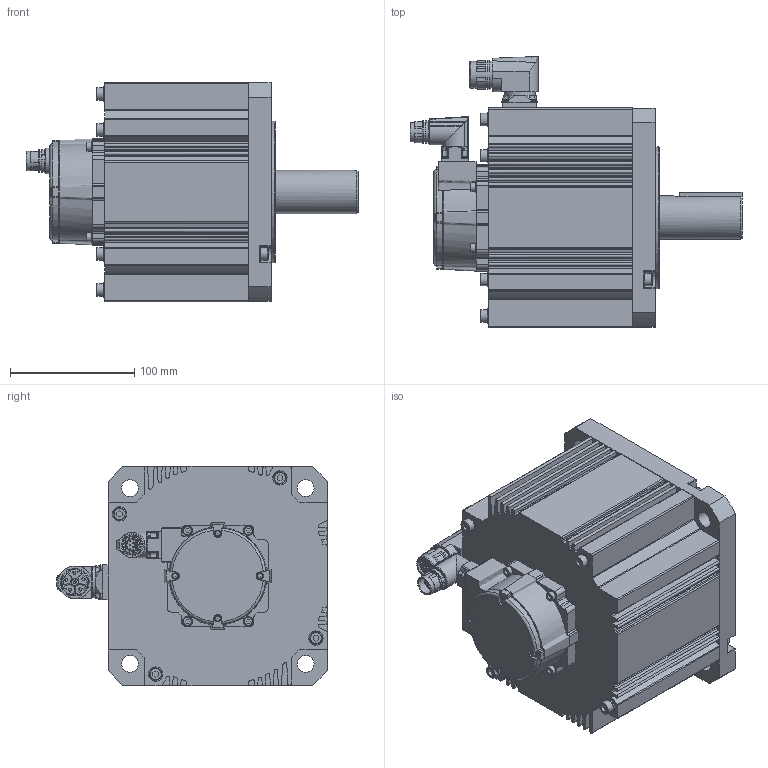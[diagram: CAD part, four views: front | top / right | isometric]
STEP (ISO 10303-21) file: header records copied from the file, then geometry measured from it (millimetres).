
FILE_DESCRIPTION(/* description */ ('STEP AP214'),/* implementation_level */ '2;1');
FILE_NAME(/* name */ 'MDMF504L1G9M',/* time_stamp */ '2025-06-02T12:33:47+02:00',/* author */ ('License CC BY-ND 4.0'),/* organization */ ('CADENAS'),/* preprocessor_version */ 'ST-DEVELOPER v19.3',/* originating_system */ 'PARTsolutions',/* authorisation */ ' ');
FILE_SCHEMA (('AUTOMOTIVE_DESIGN {1 0 10303 214 3 1 1}'));
Length unit declared in the file: millimetre
Products named in the file (4): MDMF504L1G9M; MDMF504L1G9M-motor; BGC106N00001200000; AGC047N0000150A000_EC
Assembly tree (3 placements, depth 2):
  MDMF504L1G9M
    MDMF504L1G9M-motor
    BGC106N00001200000
    AGC047N0000150A000_EC
Bounding box: 267.25 x 218.1 x 176.6 mm (x, y, z)
Volume: 4071066.4 mm3; surface area: 231652.7 mm2
Topology: 3 solids, 3 shells, 1016 faces, 2735 edges, 1810 vertices
Faces by surface type: plane 547, cylinder 372, cone 45, torus 23, bspline 17, sphere 12
Full cylindrical faces by diameter (mm): 1.25 x12, 2.232 x6, 2.459 x1, 2.8 x1, 5.5 x5, 6 x4, 7 x4, 8 x4, 10 x8, 11.5 x8, 13.4 x1, 13.5 x4, 15.54 x1, 16 x1, 16.2 x1, 19.7 x1, 21.6 x1, 24.1 x1, 35 x1, 52 x1, 114.3 x1
Entity records: 31859 total; most frequent: CARTESIAN_POINT 6397, DIRECTION 5411, ORIENTED_EDGE 5142, EDGE_CURVE 2571, AXIS2_PLACEMENT_3D 1992, VERTEX_POINT 1763, LINE 1427, VECTOR 1427
